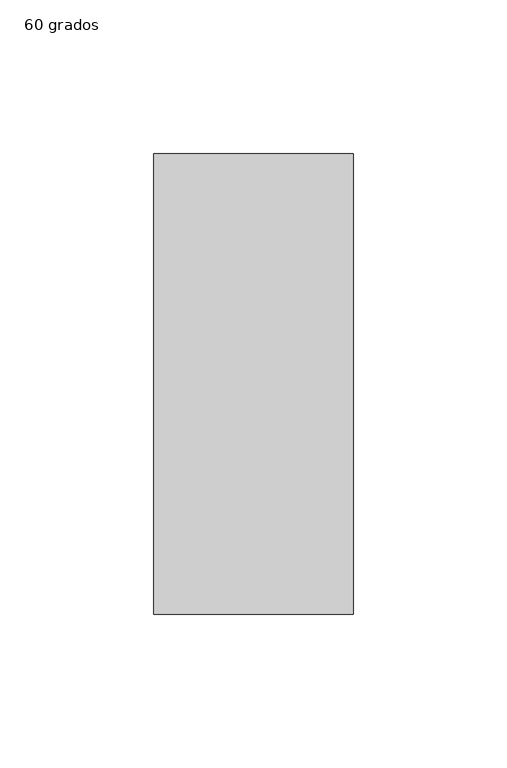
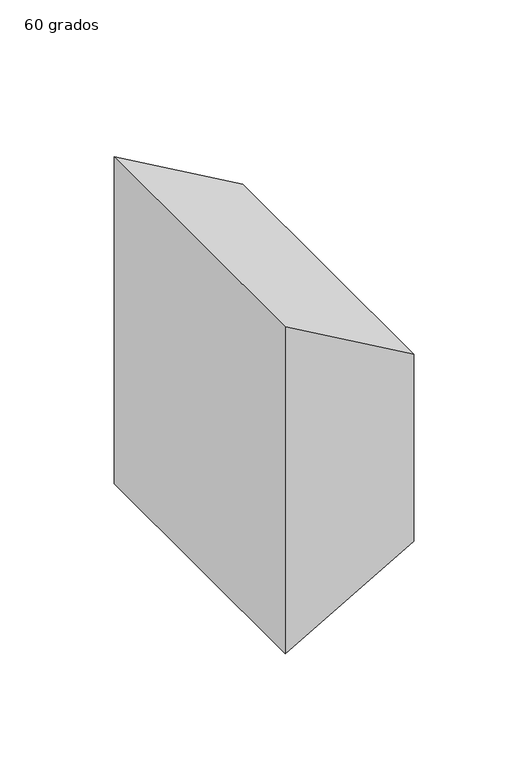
"""IFC4 building model written with IfcOpenShell, lengths in millimetres: duct fitting geometry, M_Transición rectangular - Ángulo : 60 grados."""

from ifc_helpers import new_model, si_unit, frame, origin, place, context, project, spatial, polyline, outline, extrude, source, transform, mapped, element, save


def duct_fitting_60_grados_c78d391d(model_context):
    return source(origin(), model_context, "Body", "SweptSolid", [
        extrude(outline(polyline([(87.5, 0.0), (-87.5, 0.0), (-50.0, 64.9519053), (50.0, 64.9519053), (87.5, 0.0)])), frame((0.0, -75.0, 0.0), z_axis=(0.0, 1.0, 0.0), x_axis=(0.0, 0.0, 1.0)), (0.0, 0.0, 1.0), 150.0),
    ])


if __name__ == "__main__":
    model = new_model("IFC4")
    model_context = context("Model", 3, world=origin())
    ifc_project = project(units=[si_unit("LENGTHUNIT", "METRE", prefix="MILLI")], contexts=[model_context])
    site = spatial("IfcSite", under=ifc_project)
    building = spatial("IfcBuilding", under=site)
    placement = place(None, origin())
    duct_fitting_60_grados_shape = duct_fitting_60_grados_c78d391d(model_context)
    element("IfcDuctFitting", 1, ObjectType="M_Transición rectangular - Ángulo : 60 grados", at=placement, inside=building, context=model_context, shape_type="MappedRepresentation", body=[
        mapped(duct_fitting_60_grados_shape, transform((0.0, 0.0, 0.0), x_axis=(1.0, 0.0, 0.0), y_axis=(0.0, 1.0, 0.0), z_axis=(0.0, 0.0, 1.0))),
    ])
    save(model, "model.ifc")
